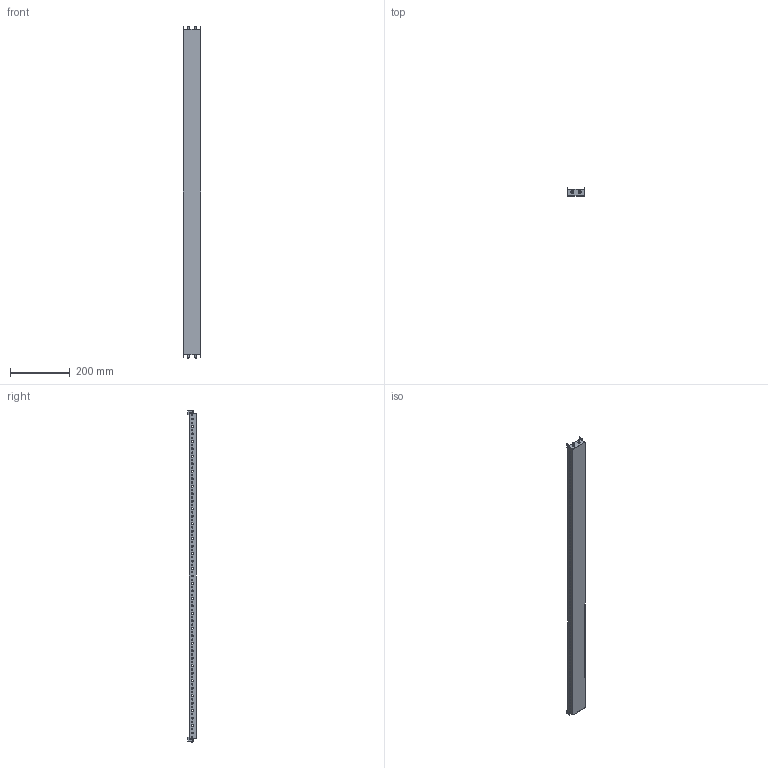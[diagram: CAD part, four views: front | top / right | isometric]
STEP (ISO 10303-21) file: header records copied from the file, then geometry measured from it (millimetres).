
FILE_DESCRIPTION(('Open CASCADE Model'),'2;1');
FILE_NAME('Open CASCADE Shape Model','2025-03-10T09:37:13',('Author'),( 'Open CASCADE'),'Open CASCADE STEP processor 7.8','Open CASCADE 7.8' ,'Unknown');
FILE_SCHEMA(('AUTOMOTIVE_DESIGN { 1 0 10303 214 1 1 1 1 }'));
Length unit declared in the file: millimetre
Products named in the file (3): Compound1; Solid1; Solid2
Assembly tree (5 placements, depth 2):
  Compound1
    Solid1
    Solid2  x4
Bounding box: 60 x 28 x 1110 mm (x, y, z)
Volume: 167833.2 mm3; surface area: 231727.9 mm2
Topology: 5 solids, 5 shells, 514 faces, 1448 edges, 940 vertices
Faces by surface type: cylinder 372, plane 94, cone 16, torus 16, bspline 8, sphere 8
Entity records: 16046 total; most frequent: DIRECTION 2918, CARTESIAN_POINT 2815, ORIENTED_EDGE 2592, EDGE_CURVE 1296, AXIS2_PLACEMENT_3D 1186, VERTEX_POINT 859, FACE_BOUND 799, EDGE_LOOP 799
